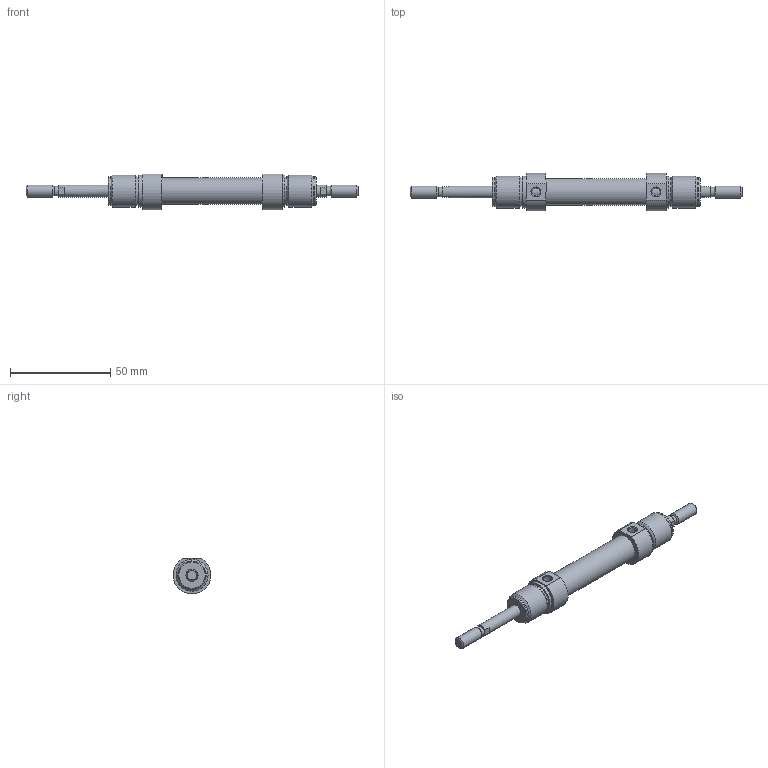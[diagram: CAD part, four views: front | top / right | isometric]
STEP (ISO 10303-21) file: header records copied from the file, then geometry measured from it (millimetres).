
FILE_DESCRIPTION( ( 'STEP AP203' ), '1' );
FILE_NAME( '//expscmdclustefs.cadenas.external/client_exchange/iodir/jobs/output/wkb68360615_no0/STEP/M101-012-0020-M__0__2_03.stp', ' ', ( ' ' ), ( ' ' ), 'PSStep 15.0.47', 'PARTsolutions', ' ' );
FILE_SCHEMA( ( 'CONFIG_CONTROL_DESIGN' ) );
Length unit declared in the file: millimetre
Products named in the file (3): M101-012-0020-M [0]; HI_M101-012-0020-M-[0]-z; HI_M101-012-0020-M-[0]-k
Assembly tree (2 placements, depth 2):
  M101-012-0020-M [0]
    HI_M101-012-0020-M-[0]-z
    HI_M101-012-0020-M-[0]-k
Bounding box: 166 x 18.73 x 17.86 mm (x, y, z)
Volume: 18782.7 mm3; surface area: 11923.4 mm2
Topology: 2 solids, 2 shells, 65 faces, 129 edges, 80 vertices
Faces by surface type: plane 26, cylinder 23, cone 14, torus 2
Full cylindrical faces by diameter (mm): 4.134 x2, 4.773 x2, 6 x6, 12 x2, 13.3 x1, 14.16 x4, 16 x4
Entity records: 1670 total; most frequent: CARTESIAN_POINT 324, DIRECTION 280, ORIENTED_EDGE 184, AXIS2_PLACEMENT_3D 128, EDGE_LOOP 116, EDGE_CURVE 92, FACE_OUTER_BOUND 88, VERTEX_POINT 76
